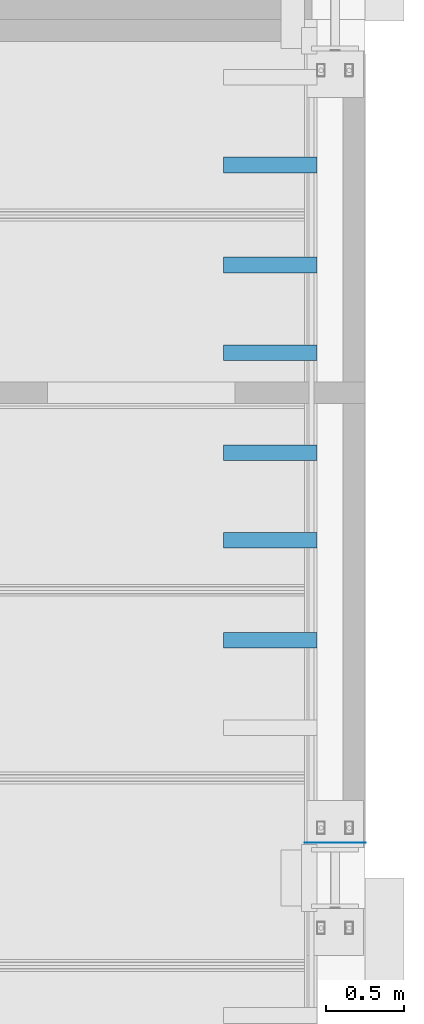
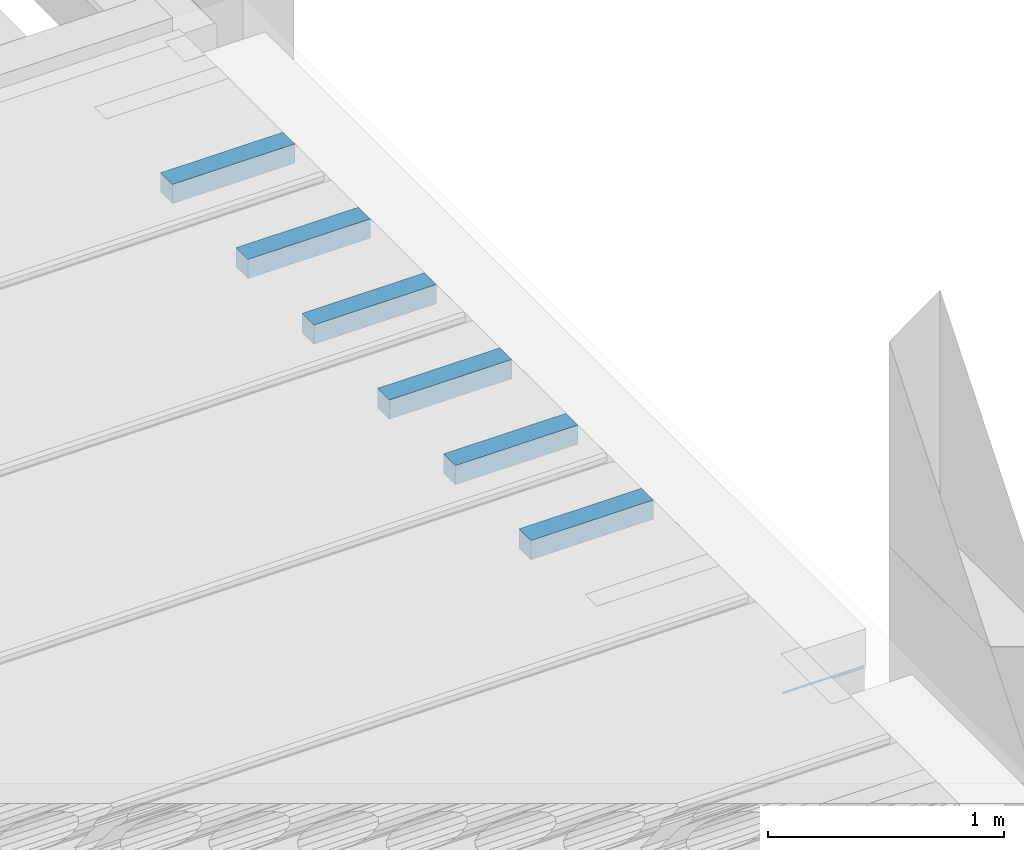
# One storey, part 22 of 230: 8 beams.
"""IFC4X3_ADD2 building model written with IfcOpenShell, lengths in millimetres."""

from ifc_helpers import new_model, si_unit, direction, frame, frame_2d, origin_with_axes, place, context, subcontext, project, spatial, rectangle, extrude, material, element, save


model = new_model("IFC4X3_ADD2")

# Units and contexts
model_context = context("Model", 3, precision=1e-05, world=origin_with_axes(), true_north=direction((0.0, 1.0)))
body_context = subcontext(model_context, "Body", "Model", "MODEL_VIEW")
ifc_project = project(units=[si_unit("LENGTHUNIT", "METRE", prefix="MILLI"), si_unit("AREAUNIT", "SQUARE_METRE"), si_unit("VOLUMEUNIT", "CUBIC_METRE"), si_unit("PLANEANGLEUNIT", "RADIAN"), si_unit("TIMEUNIT", "SECOND"), si_unit("MASSUNIT", "GRAM")], contexts=[model_context])

# Site, building, storey
site_placement = place(None, origin_with_axes())
site = spatial("IfcSite", under=ifc_project, at=site_placement, Name="Site", CompositionType="ELEMENT")
building_placement = place(site_placement, origin_with_axes())
building = spatial("IfcBuilding", under=site, at=building_placement, Name="IFC Building Story")
storey_placement = place(building_placement, origin_with_axes())
storey = spatial("IfcBuildingStorey", under=building, at=storey_placement, Name="ETAGE 00 (0)", Elevation=0.0)

# Beams
ifc_material = material(Name="STEEL/Accessory_invisible")
for number, where, z_axis, x_axis, name in (
    (1, (48196.18900000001, 16880.0, 4150.0), (-1.0, 0.0, 0.0), (0.0, -1.0, 0.0), "ES7"),
    (2, (48196.18900000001, 16240.0, 4150.0), (-1.0, 0.0, 0.0), (0.0, -1.0, 0.0), "ES7"),
    (3, (48196.18900000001, 15680.0, 4150.0), (-1.0, 0.0, 0.0), (0.0, -1.0, 0.0), "ES7"),
    (4, (48196.18900000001, 15040.0, 4150.0), (-1.0, 0.0, 0.0), (0.0, -1.0, 0.0), "ES7"),
    (5, (48196.18900000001, 14480.0, 4150.0), (-1.0, 0.0, 0.0), (0.0, -1.0, 0.0), "ES7"),
    (6, (48196.18900000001, 13840.0, 4150.0), (-1.0, 0.0, 0.0), (0.0, -1.0, 0.0), "ES7"),
):
    element("IfcBeam", number, at=place(storey_placement, frame(where, z_axis=z_axis, x_axis=x_axis)), inside=storey, material=ifc_material, Name=name, ObjectType="100*100", context=body_context, shape_type="SweptSolid", body=[
        extrude(rectangle(XDim=100.0, YDim=99.99999999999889, at=frame_2d((0.0, 5.95523630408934e-12), x_axis=(1.0, 0.0))), origin_with_axes(), (0.0, 0.0, 1.0), 600.0),
    ])
beam_1_placement = place(storey_placement, frame((48235.586, 12545.0006109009, 3984.5), z_axis=(-1.0, 0.0, 0.0), x_axis=(0.0, 1.0, 0.0)))
element("IfcBeam", 7, at=beam_1_placement, inside=storey, material=ifc_material, Name="ZW3", ObjectType="1*1 3", context=body_context, shape_type="SweptSolid", body=[
    extrude(rectangle(XDim=0.9999999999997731, YDim=0.9999999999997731, at=frame_2d((0.0, 5.95523630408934e-12), x_axis=(1.0, 0.0))), origin_with_axes(), (0.0, 0.0, 1.0), 119.9000000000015),
])
beam_2_placement = place(storey_placement, frame((48505.686, 12545.0006109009, 3984.5), z_axis=(-1.0, 0.0, 0.0), x_axis=(0.0, 1.0, 0.0)))
element("IfcBeam", 8, at=beam_2_placement, inside=storey, material=ifc_material, Name="ZW3", ObjectType="1*1 3", context=body_context, shape_type="SweptSolid", body=[
    extrude(rectangle(XDim=0.9999999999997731, YDim=0.9999999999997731, at=frame_2d((0.0, 5.95523630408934e-12), x_axis=(1.0, 0.0))), origin_with_axes(), (0.0, 0.0, 1.0), 270.0000000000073),
])

save(model, "model.ifc")
